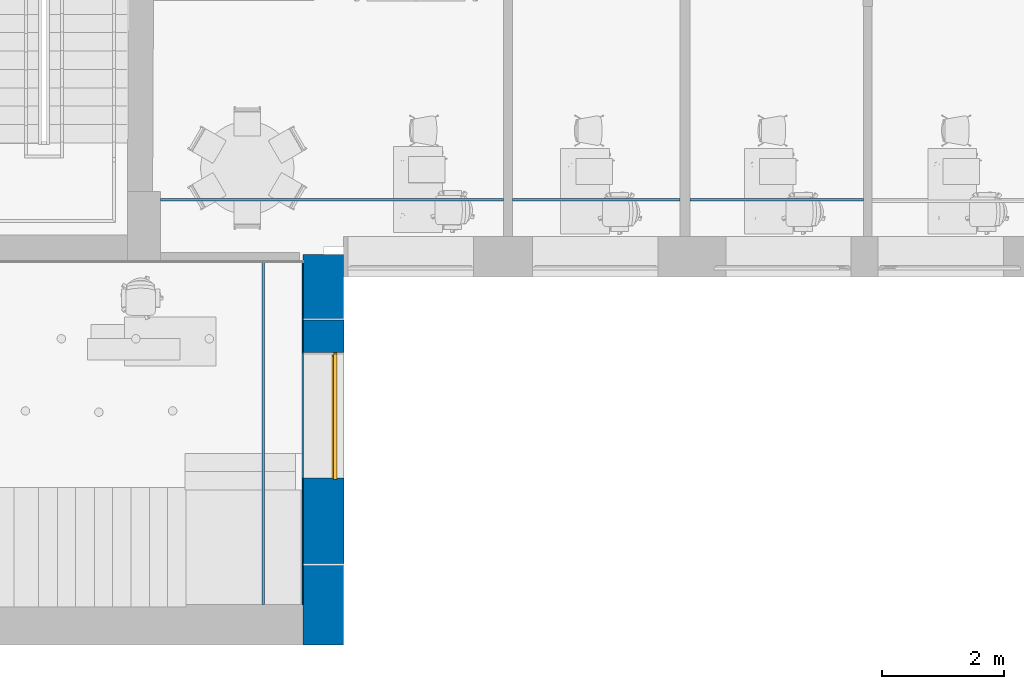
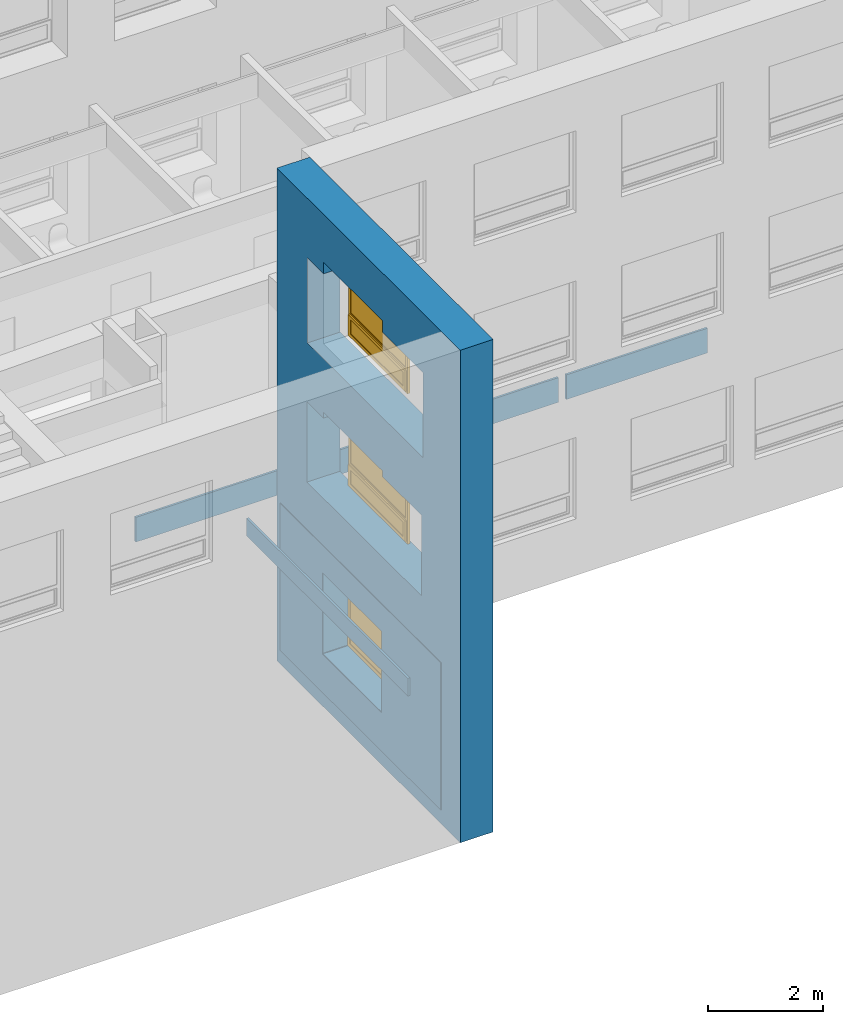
"""IFC2X3 building model written with IfcOpenShell, lengths in millimetres."""

from ifc_helpers import new_model, entity, si_unit, converted_unit, derived_unit, direction, frame, frame_2d, origin, origin_2d_with_axis, place, context, subcontext, project, spatial, rectangle, extrude, faceted_brep, source, transform, mapped, material, material_list, layer, layer_set, layer_usage, type_object, type_shapes, element, fill, save


model = new_model("IFC2X3")

# Units and contexts
model_context = context("Model", 3, precision=0.01, world=origin(), true_north=direction((6.12303176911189e-17, 1.0)))
context_of_model = context(None, 3, precision=0.01, world=origin(), true_north=direction((6.12303176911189e-17, 1.0)))
body_context = subcontext(model_context, "Body", "Model", "MODEL_VIEW")
ifc_project = project(units=[si_unit("LENGTHUNIT", "METRE", prefix="MILLI"), si_unit("AREAUNIT", "SQUARE_METRE"), si_unit("VOLUMEUNIT", "CUBIC_METRE"), converted_unit("PLANEANGLEUNIT", "DEGREE", entity("IfcRatioMeasure", 0.0174532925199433), si_unit("PLANEANGLEUNIT", "RADIAN"), dimensions=[0, 0, 0, 0, 0, 0, 0]), si_unit("MASSUNIT", "GRAM", prefix="KILO"), derived_unit("MASSDENSITYUNIT", [(si_unit("MASSUNIT", "GRAM", prefix="KILO"), 1), (si_unit("LENGTHUNIT", "METRE"), -3)]), si_unit("TIMEUNIT", "SECOND"), si_unit("FREQUENCYUNIT", "HERTZ"), si_unit("THERMODYNAMICTEMPERATUREUNIT", "DEGREE_CELSIUS"), derived_unit("THERMALTRANSMITTANCEUNIT", [(si_unit("MASSUNIT", "GRAM", prefix="KILO"), 1), (si_unit("THERMODYNAMICTEMPERATUREUNIT", "KELVIN"), -1), (si_unit("TIMEUNIT", "SECOND"), -3)]), derived_unit("VOLUMETRICFLOWRATEUNIT", [(si_unit("LENGTHUNIT", "METRE"), 3), (si_unit("TIMEUNIT", "SECOND"), -1)]), si_unit("ELECTRICCURRENTUNIT", "AMPERE"), si_unit("ELECTRICVOLTAGEUNIT", "VOLT"), si_unit("POWERUNIT", "WATT"), si_unit("FORCEUNIT", "NEWTON", prefix="KILO"), si_unit("ILLUMINANCEUNIT", "LUX"), si_unit("LUMINOUSFLUXUNIT", "LUMEN"), si_unit("LUMINOUSINTENSITYUNIT", "CANDELA"), derived_unit("USERDEFINED", [(si_unit("MASSUNIT", "GRAM", prefix="KILO"), -1), (si_unit("LENGTHUNIT", "METRE"), -2), (si_unit("TIMEUNIT", "SECOND"), 3), (si_unit("LUMINOUSFLUXUNIT", "LUMEN"), 1)]), derived_unit("LINEARVELOCITYUNIT", [(si_unit("LENGTHUNIT", "METRE"), 1), (si_unit("TIMEUNIT", "SECOND"), -1)]), si_unit("PRESSUREUNIT", "PASCAL"), derived_unit("USERDEFINED", [(si_unit("LENGTHUNIT", "METRE"), -2), (si_unit("MASSUNIT", "GRAM", prefix="KILO"), 1), (si_unit("TIMEUNIT", "SECOND"), -2)])], contexts=[model_context, context_of_model])

# Site, building, storey
site_placement = place(None, frame((121442.264707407, 135347.995453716, -1800.0)))
site = spatial("IfcSite", under=ifc_project, at=site_placement, Name="Surface", CompositionType="ELEMENT")
building_placement = place(site_placement, origin())
building = spatial("IfcBuilding", under=site, at=building_placement, CompositionType="ELEMENT")
storey_1_placement = place(building_placement, frame((0.0, 0.0, 1800.0)))
storey_1 = spatial("IfcBuildingStorey", under=building, at=storey_1_placement, Name="1 korrus", CompositionType="ELEMENT", Elevation=1800.00000000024)

# Wall, openings, window
ifc_material_1 = material(Name="Plaster")
ifc_layer_1 = layer(ifc_material_1, 10.0)
ifc_material_2 = material(Name="Polystyrene")
ifc_layer_2 = layer(ifc_material_2, 150.0)
ifc_material_3 = material(Name="__Betoonelement")
ifc_layer_3 = layer(ifc_material_3, 500.0)
ifc_layer_set_1 = layer_set([ifc_layer_1, ifc_layer_2, ifc_layer_3], Name="Basic Wall:Olemasolev Soojustatud Välissein")
ifc_layer_usage_1 = layer_usage(ifc_layer_set_1, "AXIS2", "NEGATIVE", 330.0)
wall_type_1 = type_object("IfcWallType", Name="Basic Wall:Olemasolev Soojustatud Välissein", PredefinedType="STANDARD", material=ifc_layer_set_1)
wall_1_placement = place(storey_1_placement, frame((-103360.469884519, -127428.026357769, -303.0), z_axis=(0.0, 0.0, 1.0), x_axis=(0.0, -1.0, 0.0)))
wall_1 = element("IfcWallStandardCase", 1, at=wall_1_placement, inside=storey_1, type_object=wall_type_1, material=ifc_layer_usage_1, Name="Basic Wall:Olemasolev Soojustatud Välissein", ObjectType="Basic Wall:Olemasolev Soojustatud Välissein", context=body_context, shape_type="SweptSolid", body=[
    extrude(rectangle(XDim=6382.90080820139, YDim=659.999999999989, at=frame_2d((3191.4504041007, 5.96855898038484e-13), x_axis=(-1.0, 0.0))), origin(), (0.0, 0.0, 1.0), 10463.0),
])
opening_1_placement = place(wall_1_placement, origin())
element("IfcOpeningElement", 2, at=opening_1_placement, cuts=wall_1, Name="Basic Wall:Olemasolev Soojustatud Välissein", ObjectType="Opening", context=body_context, shape_type="SweptSolid", body=[
    extrude(rectangle(XDim=1730.0, YDim=660.000000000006, at=frame_2d((-8.66862137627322e-12, 5.6843418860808e-13), x_axis=(0.0, 1.0))), frame((37.9546577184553, 407.555717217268, 8583.0), z_axis=(0.0, 1.0, 0.0), x_axis=(-1.0, 0.0, 0.0)), (0.0, 0.0, 1.0), 2050.0),
])
opening_2_placement = place(wall_1_placement, frame((1627.95465771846, -330.0, 4528.0)))
opening_2 = element("IfcOpeningElement", 3, at=opening_2_placement, cuts=wall_1, Name="sma_W2:A-1 UUS 2050 x 1730mm Avatav:1", ObjectType="Opening", context=body_context, shape_type="SweptSolid", body=[
    extrude(rectangle(XDim=1730.0, YDim=2050.0, at=frame_2d((865.0, 1025.0), x_axis=(1.0, 0.0))), frame((0.0, 0.0, 0.0), z_axis=(0.0, 1.0, 0.0), x_axis=(0.0, 0.0, 1.0)), (0.0, 0.0, 1.0), 660.0),
])
opening_3_placement = place(wall_1_placement, frame((-127428.026357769, 103360.469884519, 3628.0), z_axis=(0.0, 0.0, 1.0), x_axis=(0.0, 1.0, 0.0)))
element("IfcOpeningElement", 4, at=opening_3_placement, cuts=wall_1, Name="Basic Wall:Olemasolev Soojustatud Välissein", ObjectType="Opening", context=body_context, shape_type="SweptSolid", body=[
    extrude(rectangle(XDim=1710.0, YDim=3980.0, at=origin_2d_with_axis()), frame((-105214.469884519, -130467.780928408, 1655.0), z_axis=(1.0, 0.0, 0.0), x_axis=(0.0, 0.0, 1.0)), (0.0, 0.0, 1.0), 3048.0),
])
opening_4_placement = place(wall_1_placement, frame((1605.80211534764, -330.0, 1118.0)))
opening_4 = element("IfcOpeningElement", 5, at=opening_4_placement, cuts=wall_1, Name="sma_W2:A-1* 2050 x 1730mm Avatav:1", ObjectType="Opening", context=body_context, shape_type="SweptSolid", body=[
    extrude(rectangle(XDim=1730.0, YDim=2050.0, at=frame_2d((865.0, 1025.0), x_axis=(1.0, 0.0))), frame((0.0, 0.0, 0.0), z_axis=(0.0, 1.0, 0.0), x_axis=(0.0, 0.0, 1.0)), (0.0, 0.0, 1.0), 660.0),
])
opening_5_placement = place(wall_1_placement, frame((-127428.026357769, 103360.469884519, 303.0), z_axis=(0.0, 0.0, 1.0), x_axis=(0.0, 1.0, 0.0)))
element("IfcOpeningElement", 6, at=opening_5_placement, cuts=wall_1, Name="Basic Wall:Olemasolev Soojustatud Välissein", ObjectType="Opening", context=body_context, shape_type="SweptSolid", body=[
    extrude(rectangle(XDim=1710.0, YDim=3980.0, at=frame_2d((0.0, 0.0), x_axis=(0.0, 1.0))), frame((-105214.469884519, -130485.465148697, 1681.448480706), z_axis=(1.0, 0.0, 0.0), x_axis=(0.0, 1.0, 0.0)), (0.0, 0.0, 1.0), 3048.0),
])
opening_6_placement = place(wall_1_placement, frame((1627.95465771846, -330.0, 7718.0)))
opening_6 = element("IfcOpeningElement", 7, at=opening_6_placement, cuts=wall_1, Name="sma_W2:A-1 UUS 2050 x 1730mm Avatav:1", ObjectType="Opening", context=body_context, shape_type="SweptSolid", body=[
    extrude(rectangle(XDim=1730.0, YDim=2050.0, at=frame_2d((865.0, 1025.0), x_axis=(1.0, 0.0))), frame((0.0, 0.0, 0.0), z_axis=(0.0, 1.0, 0.0), x_axis=(0.0, 0.0, 1.0)), (0.0, 0.0, 1.0), 660.0),
])
opening_7_placement = place(wall_1_placement, frame((-127428.026357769, 103360.469884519, 6818.0), z_axis=(0.0, 0.0, 1.0), x_axis=(0.0, 1.0, 0.0)))
element("IfcOpeningElement", 8, at=opening_7_placement, cuts=wall_1, Name="Basic Wall:Olemasolev Soojustatud Välissein", ObjectType="Opening", context=body_context, shape_type="SweptSolid", body=[
    extrude(rectangle(XDim=1810.0, YDim=4020.0, at=frame_2d((-1.08002495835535e-12, -8.64019966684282e-12), x_axis=(1.0, 0.0))), frame((-105214.469884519, -130501.968493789, 1480.0), z_axis=(1.0, 0.0, 0.0), x_axis=(0.0, 0.0, 1.0)), (0.0, 0.0, 1.0), 3048.0),
])
ifc_material_4 = material(Name="PVC")
ifc_material_5 = material(Name="Glass")
ifc_material_list_1 = material_list([ifc_material_4, ifc_material_5])
ifc_material_list_2 = material_list([ifc_material_4, ifc_material_5])
window_style_1 = type_object("IfcWindowStyle", Name="A-1* 2050 x 1730mm Avatav", ConstructionType="OTHER_CONSTRUCTION", OperationType="NOTDEFINED", ParameterTakesPrecedence=False, Sizeable=False, material=ifc_material_list_2)
shared_shape_1 = source(origin(), body_context, "Body", "Brep", [
    faceted_brep([(0.0, 499.759876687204, 0.0), (2050.0, 499.759876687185, 0.0), (2050.0, 499.759876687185, 1730.0), (0.0, 499.759876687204, 1730.0), (35.0, 499.759876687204, 35.0), (35.0, 499.759876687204, 480.0), (2015.0, 499.759876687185, 480.0), (2015.0, 499.759876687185, 35.0), (1980.0, 499.759876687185, 515.0), (70.0, 499.759876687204, 515.0), (70.0, 499.759876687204, 1660.0), (1980.0, 499.759876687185, 1660.0), (0.0, 549.759876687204, 0.0), (2050.0, 549.759876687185, 0.0), (2050.0, 549.759876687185, 1730.0), (0.0, 549.759876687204, 1730.0), (35.0, 524.759876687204, 35.0), (35.0, 524.759876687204, 480.0), (2015.0, 524.759876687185, 480.0), (2015.0, 524.759876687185, 35.0), (70.0, 549.759876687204, 70.0), (1980.0, 549.759876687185, 70.0), (1980.0, 549.759876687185, 445.0), (70.0, 549.759876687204, 445.0), (1980.0, 549.759876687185, 515.0), (1980.0, 549.759876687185, 1660.0), (70.0, 549.759876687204, 1660.0), (70.0, 549.759876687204, 515.0), (70.0, 524.759876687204, 70.0), (1980.0, 524.759876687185, 70.0), (1980.0, 524.759876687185, 445.0), (70.0, 524.759876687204, 445.0)], [[[0, 1, 2, 3], [4, 5, 6, 7], [8, 9, 10, 11]], [[1, 0, 12, 13]], [[2, 1, 13, 14]], [[0, 3, 15, 12]], [[16, 17, 5, 4]], [[17, 18, 6, 5]], [[18, 19, 7, 6]], [[19, 16, 4, 7]], [[12, 15, 14, 13], [20, 21, 22, 23], [24, 25, 26, 27]], [[21, 20, 28, 29]], [[22, 21, 29, 30]], [[23, 22, 30, 31]], [[20, 23, 31, 28]], [[17, 16, 19, 18], [28, 31, 30, 29]], [[3, 2, 14, 15]], [[10, 9, 27, 26]], [[11, 10, 26, 25]], [[8, 11, 25, 24]], [[9, 8, 24, 27]]]),
    faceted_brep([(105.0, 489.759876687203, 105.0), (1945.0, 489.759876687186, 105.0), (1945.0, 489.759876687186, 410.0), (105.0, 489.759876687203, 410.0), (105.0, 509.759876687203, 105.0), (105.0, 509.759876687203, 410.0), (1945.0, 509.759876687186, 410.0), (1945.0, 509.759876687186, 105.0)], [[[0, 1, 2, 3]], [[4, 5, 6, 7]], [[1, 0, 4, 7]], [[2, 1, 7, 6]], [[3, 2, 6, 5]], [[0, 3, 5, 4]]]),
    faceted_brep([(35.0, 474.759876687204, 35.0), (2015.0, 474.759876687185, 35.0), (2015.0, 474.759876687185, 480.0), (35.0, 474.759876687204, 480.0), (105.0, 474.759876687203, 105.0), (105.0, 474.759876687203, 410.0), (1945.0, 474.759876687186, 410.0), (1945.0, 474.759876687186, 105.0), (35.0, 524.759876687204, 35.0), (35.0, 524.759876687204, 480.0), (2015.0, 524.759876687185, 480.0), (2015.0, 524.759876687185, 35.0), (105.0, 524.759876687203, 105.0), (1945.0, 524.759876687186, 105.0), (1945.0, 524.759876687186, 410.0), (105.0, 524.759876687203, 410.0)], [[[0, 1, 2, 3], [4, 5, 6, 7]], [[8, 9, 10, 11], [12, 13, 14, 15]], [[1, 0, 8, 11]], [[2, 1, 11, 10]], [[3, 2, 10, 9]], [[0, 3, 9, 8]], [[5, 4, 12, 15]], [[6, 5, 15, 14]], [[7, 6, 14, 13]], [[4, 7, 13, 12]]]),
    faceted_brep([(70.0, 514.759876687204, 515.0), (1980.0, 514.759876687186, 515.0), (1980.0, 514.759876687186, 1660.0), (70.0, 514.759876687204, 1660.0), (1980.0, 534.759876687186, 515.0), (1980.0, 534.759876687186, 1660.0), (70.0, 534.759876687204, 1660.0), (70.0, 534.759876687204, 515.0)], [[[0, 1, 2, 3]], [[2, 1, 4, 5]], [[3, 2, 5, 6]], [[0, 3, 6, 7]], [[7, 6, 5, 4]], [[1, 0, 7, 4]]]),
])
type_shapes(window_style_1, [shared_shape_1])
window_1_placement = place(opening_4_placement, origin())
window_1 = element("IfcWindow", 9, at=window_1_placement, inside=storey_1, type_object=window_style_1, material=ifc_material_list_1, Name="sma_W2:A-1* 2050 x 1730mm Avatav", ObjectType="A-1* 2050 x 1730mm Avatav", OverallHeight=1730.0, OverallWidth=2050.0, context=body_context, shape_type="MappedRepresentation", body=[
    mapped(shared_shape_1, transform((0.0, 0.0, 0.0), scale=1.0)),
])
fill(opening_4, window_1)

# Storey
storey_2_placement = place(building_placement, frame((0.0, 0.0, 5125.0)))
storey_2 = spatial("IfcBuildingStorey", under=building, at=storey_2_placement, Name="2 korrus", CompositionType="ELEMENT", Elevation=5125.00000000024)

# Window
ifc_material_list_3 = material_list([ifc_material_4, ifc_material_5])
ifc_material_list_4 = material_list([ifc_material_4, ifc_material_5])
window_style_2 = type_object("IfcWindowStyle", Name="A-1 UUS 2050 x 1730mm Avatav", ConstructionType="NOTDEFINED", OperationType="NOTDEFINED", ParameterTakesPrecedence=False, Sizeable=False, material=ifc_material_list_4)
shared_shape_2 = source(origin(), body_context, "Body", "Brep", [
    faceted_brep([(0.0, 499.759876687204, 0.0), (2050.0, 499.759876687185, 0.0), (2050.0, 499.759876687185, 1730.0), (0.0, 499.759876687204, 1730.0), (35.0, 499.759876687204, 35.0), (35.0, 499.759876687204, 480.0), (2015.0, 499.759876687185, 480.0), (2015.0, 499.759876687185, 35.0), (1980.0, 499.759876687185, 515.0), (70.0, 499.759876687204, 515.0), (70.0, 499.759876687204, 1660.0), (1980.0, 499.759876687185, 1660.0), (0.0, 549.759876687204, 0.0), (2050.0, 549.759876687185, 0.0), (2050.0, 549.759876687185, 1730.0), (0.0, 549.759876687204, 1730.0), (35.0, 524.759876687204, 35.0), (35.0, 524.759876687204, 480.0), (2015.0, 524.759876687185, 480.0), (2015.0, 524.759876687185, 35.0), (70.0, 549.759876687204, 70.0), (1980.0, 549.759876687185, 70.0), (1980.0, 549.759876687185, 445.0), (70.0, 549.759876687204, 445.0), (1980.0, 549.759876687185, 515.0), (1980.0, 549.759876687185, 1660.0), (70.0, 549.759876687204, 1660.0), (70.0, 549.759876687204, 515.0), (70.0, 524.759876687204, 70.0), (1980.0, 524.759876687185, 70.0), (1980.0, 524.759876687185, 445.0), (70.0, 524.759876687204, 445.0)], [[[0, 1, 2, 3], [4, 5, 6, 7], [8, 9, 10, 11]], [[1, 0, 12, 13]], [[2, 1, 13, 14]], [[0, 3, 15, 12]], [[16, 17, 5, 4]], [[18, 19, 7, 6]], [[19, 16, 4, 7]], [[12, 15, 14, 13], [20, 21, 22, 23], [24, 25, 26, 27]], [[21, 20, 28, 29]], [[22, 21, 29, 30]], [[20, 23, 31, 28]], [[17, 16, 19, 18], [28, 31, 30, 29]], [[3, 2, 14, 15]], [[10, 9, 27, 26]], [[11, 10, 26, 25]], [[8, 11, 25, 24]], [[23, 22, 30, 31]], [[9, 8, 24, 27]], [[17, 18, 6, 5]]]),
    faceted_brep([(105.0, 489.759876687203, 105.0), (1945.0, 489.759876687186, 105.0), (1945.0, 489.759876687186, 410.0), (105.0, 489.759876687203, 410.0), (105.0, 509.759876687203, 105.0), (1945.0, 509.759876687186, 105.0), (1945.0, 509.759876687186, 410.0), (105.0, 509.759876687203, 410.0)], [[[0, 1, 2, 3]], [[1, 0, 4, 5]], [[2, 1, 5, 6]], [[0, 3, 7, 4]], [[4, 7, 6, 5]], [[3, 2, 6, 7]]]),
    faceted_brep([(35.0, 474.759876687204, 35.0), (2015.0, 474.759876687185, 35.0), (2015.0, 474.759876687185, 480.0), (35.0, 474.759876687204, 480.0), (105.0, 474.759876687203, 105.0), (105.0, 474.759876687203, 410.0), (1945.0, 474.759876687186, 410.0), (1945.0, 474.759876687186, 105.0), (35.0, 524.759876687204, 35.0), (2015.0, 524.759876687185, 35.0), (2015.0, 524.759876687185, 480.0), (35.0, 524.759876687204, 480.0), (105.0, 524.759876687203, 105.0), (105.0, 524.759876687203, 410.0), (1945.0, 524.759876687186, 410.0), (1945.0, 524.759876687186, 105.0)], [[[0, 1, 2, 3], [4, 5, 6, 7]], [[1, 0, 8, 9]], [[2, 1, 9, 10]], [[0, 3, 11, 8]], [[5, 4, 12, 13]], [[7, 6, 14, 15]], [[4, 7, 15, 12]], [[8, 11, 10, 9], [12, 15, 14, 13]], [[3, 2, 10, 11]], [[6, 5, 13, 14]]]),
    faceted_brep([(70.0, 514.759876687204, 515.0), (1980.0, 514.759876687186, 515.0), (1980.0, 514.759876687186, 1660.0), (70.0, 514.759876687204, 1660.0), (1980.0, 534.759876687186, 515.0), (1980.0, 534.759876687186, 1660.0), (70.0, 534.759876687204, 1660.0), (70.0, 534.759876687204, 515.0)], [[[0, 1, 2, 3]], [[2, 1, 4, 5]], [[3, 2, 5, 6]], [[0, 3, 6, 7]], [[7, 6, 5, 4]], [[1, 0, 7, 4]]]),
])
type_shapes(window_style_2, [shared_shape_2])
window_2_placement = place(opening_2_placement, origin())
window_2 = element("IfcWindow", 10, at=window_2_placement, inside=storey_2, type_object=window_style_2, material=ifc_material_list_3, Name="sma_W2:A-1 UUS 2050 x 1730mm Avatav", ObjectType="A-1 UUS 2050 x 1730mm Avatav", OverallHeight=1730.0, OverallWidth=2050.0, context=body_context, shape_type="MappedRepresentation", body=[
    mapped(shared_shape_2, transform((0.0, 0.0, 0.0), scale=1.0)),
])

fill(opening_2, window_2)

# Storey
storey_3_placement = place(building_placement, frame((0.0, 0.0, 8315.0)))
storey_3 = spatial("IfcBuildingStorey", under=building, at=storey_3_placement, Name="3 korrus", CompositionType="ELEMENT", Elevation=8315.00000000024)

# Window
ifc_material_list_5 = material_list([ifc_material_4, ifc_material_5])
window_3_placement = place(opening_6_placement, origin())
window_3 = element("IfcWindow", 11, at=window_3_placement, inside=storey_3, type_object=window_style_2, material=ifc_material_list_5, Name="sma_W2:A-1 UUS 2050 x 1730mm Avatav", ObjectType="A-1 UUS 2050 x 1730mm Avatav", OverallHeight=1730.0, OverallWidth=2050.0, context=body_context, shape_type="MappedRepresentation", body=[
    mapped(shared_shape_2, transform((0.0, 0.0, 0.0), scale=1.0)),
])

fill(opening_6, window_3)

# Walls
ifc_layer_4 = layer(ifc_material_1, 10.0)
ifc_material_6 = material(Name="EST. Soojustus. Kivivill. Default")
ifc_layer_5 = layer(ifc_material_6, 200.0)
ifc_material_7 = material(Name="EST. Müüritis. Väikeplokk. Kergkruusplokk")
ifc_layer_6 = layer(ifc_material_7, 450.0)
ifc_layer_7 = layer(ifc_material_1, 10.0)
ifc_layer_set_2 = layer_set([ifc_layer_4, ifc_layer_5, ifc_layer_6, ifc_layer_7], Name="Basic Wall:Uus Välissein +  Soojustus")
wall_type_2 = type_object("IfcWallType", Name="Basic Wall:Uus Välissein +  Soojustus", PredefinedType="STANDARD", material=ifc_layer_set_2)
wall_2_placement = place(storey_1_placement, frame((-103360.469884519, -128495.465148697, 826.448480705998), z_axis=(0.0, 0.0, 1.0), x_axis=(0.0, -1.0, 0.0)))
element("IfcWall", 12, at=wall_2_placement, inside=storey_1, type_object=wall_type_2, Name="Basic Wall:Uus Välissein +  Soojustus", ObjectType="Basic Wall:Uus Välissein +  Soojustus", context=body_context, shape_type="SweptSolid", body=[
    extrude(rectangle(XDim=664.999999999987, YDim=1391.63667558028, at=frame_2d((109.166666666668, 0.0), x_axis=(1.0, 0.0))), frame((3284.18166220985, 111.666666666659, 0.0), z_axis=(0.0, 0.0, 1.0), x_axis=(0.0, -1.0, 0.0)), (0.0, 0.0, 1.0), 1710.0),
    extrude(rectangle(XDim=665.000000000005, YDim=538.363324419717, at=frame_2d((109.166666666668, 0.0), x_axis=(1.0, 0.0))), frame((269.181662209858, 111.666666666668, 0.0), z_axis=(0.0, 0.0, 1.0), x_axis=(0.0, -1.0, 0.0)), (0.0, 0.0, 1.0), 1710.0),
])
ifc_material_8 = material(Name="Metal - Stud Layer")
ifc_layer_8 = layer(ifc_material_8, 30.0)
ifc_material_9 = material(Name="Gypsum Wall Board")
ifc_layer_9 = layer(ifc_material_9, 13.0)
ifc_layer_set_3 = layer_set([ifc_layer_8, ifc_layer_9], Name="Basic Wall:Kipssirm 1 kordne")
ifc_layer_usage_2 = layer_usage(ifc_layer_set_3, "AXIS2", "NEGATIVE", 21.5)
wall_type_3 = type_object("IfcWallType", Name="Basic Wall:Kipssirm 1 kordne", PredefinedType="STANDARD", material=ifc_layer_set_3)
wall_3_placement = place(storey_1_placement, frame((-106020.221402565, -126535.981015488, 2500.0)))
element("IfcWallStandardCase", 13, at=wall_3_placement, inside=storey_1, type_object=wall_type_3, material=ifc_layer_usage_2, Name="Basic Wall:Kipssirm 1 kordne", ObjectType="Basic Wall:Kipssirm 1 kordne", context=body_context, shape_type="SweptSolid", body=[
    extrude(rectangle(XDim=5605.00000000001, YDim=43.0000000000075, at=frame_2d((2802.5, 1.77635683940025e-14), x_axis=(-1.0, 0.0))), origin(), (0.0, 0.0, 1.0), 525.0),
])
ifc_layer_usage_3 = layer_usage(ifc_layer_set_3, "AXIS2", "NEGATIVE", 21.5)
wall_4_placement = place(storey_1_placement, frame((-100265.221402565, -126535.981015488, 2500.0)))
element("IfcWallStandardCase", 14, at=wall_4_placement, inside=storey_1, type_object=wall_type_3, material=ifc_layer_usage_3, Name="Basic Wall:Kipssirm 1 kordne", ObjectType="Basic Wall:Kipssirm 1 kordne", context=body_context, shape_type="SweptSolid", body=[
    extrude(rectangle(XDim=2736.56040324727, YDim=43.0000000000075, at=frame_2d((1368.28020162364, -3.73034936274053e-13), x_axis=(-1.0, 0.0))), origin(), (0.0, 0.0, 1.0), 525.0),
])
ifc_layer_usage_4 = layer_usage(ifc_layer_set_3, "AXIS2", "NEGATIVE", 21.5)
wall_5_placement = place(storey_1_placement, frame((-97368.6609993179, -126535.981015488, 2500.0)))
element("IfcWallStandardCase", 15, at=wall_5_placement, inside=storey_1, type_object=wall_type_3, material=ifc_layer_usage_4, Name="Basic Wall:Kipssirm 1 kordne", ObjectType="Basic Wall:Kipssirm 1 kordne", context=body_context, shape_type="SweptSolid", body=[
    extrude(rectangle(XDim=2836.0569343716, YDim=43.0000000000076, at=frame_2d((1418.0284671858, 0.0), x_axis=(-1.0, 0.0))), origin(), (0.0, 0.0, 1.0), 525.0),
])
ifc_layer_usage_5 = layer_usage(ifc_layer_set_3, "AXIS2", "NEGATIVE", 21.5)
wall_6_placement = place(storey_1_placement, frame((-104342.28903465, -127538.035144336, 2650.0), z_axis=(0.0, 0.0, 1.0), x_axis=(0.0, -1.0, 0.0)))
element("IfcWallStandardCase", 16, at=wall_6_placement, inside=storey_1, type_object=wall_type_3, material=ifc_layer_usage_5, Name="Basic Wall:Kipssirm 1 kordne", ObjectType="Basic Wall:Kipssirm 1 kordne", context=body_context, shape_type="SweptSolid", body=[
    extrude(rectangle(XDim=5612.89202163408, YDim=43.0000000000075, at=frame_2d((2806.44601081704, 3.5527136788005e-15), x_axis=(-1.0, 0.0))), origin(), (0.0, 0.0, 1.0), 375.0),
])

# Wall, opening
ifc_material_10 = material(Name="EST. Ehitusplaat. Kipsplaat")
ifc_layer_10 = layer(ifc_material_10, 12.5)
ifc_layer_set_4 = layer_set([ifc_layer_10], Name="Basic Wall:Kips plaat_tagasein")
ifc_layer_usage_6 = layer_usage(ifc_layer_set_4, "AXIS2", "POSITIVE", -6.25)
wall_type_4 = type_object("IfcWallType", Name="Basic Wall:Kips plaat_tagasein", PredefinedType="STANDARD", material=ifc_layer_set_4)
wall_7_placement = place(storey_1_placement, frame((-103696.719884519, -127553.346968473, 0.0), z_axis=(0.0, 0.0, 1.0), x_axis=(0.0, -1.0, 0.0)))
wall_7 = element("IfcWallStandardCase", 17, at=wall_7_placement, inside=storey_1, type_object=wall_type_4, material=ifc_layer_usage_6, Name="Basic Wall:Kips plaat_tagasein", ObjectType="Basic Wall:Kips plaat_tagasein", context=body_context, shape_type="SweptSolid", body=[
    extrude(rectangle(XDim=5597.58019749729, YDim=12.5000000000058, at=frame_2d((2798.79009874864, 0.0), x_axis=(-1.0, 0.0))), origin(), (0.0, 0.0, 1.0), 3125.0),
])
opening_8_placement = place(wall_7_placement, origin())
element("IfcOpeningElement", 18, at=opening_8_placement, cuts=wall_7, Name="Basic Wall:Kips plaat_tagasein", ObjectType="Opening", context=body_context, shape_type="SweptSolid", body=[
    extrude(rectangle(XDim=1730.0, YDim=2050.0, at=frame_2d((2.8421709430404e-13, -8.64019966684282e-12), x_axis=(1.0, 0.0))), frame((2505.48150464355, -1517.74999999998, 1680.0), z_axis=(0.0, 1.0, 0.0), x_axis=(0.0, 0.0, 1.0)), (0.0, 0.0, 1.0), 3048.0),
])

save(model, "model.ifc")
